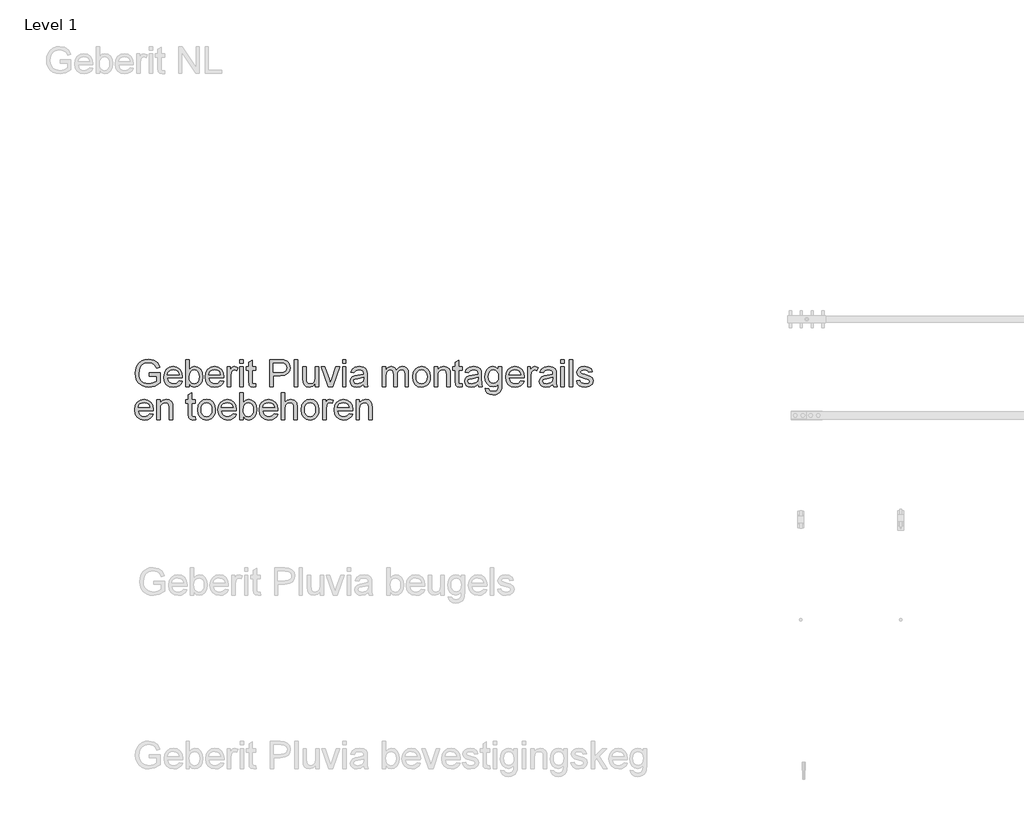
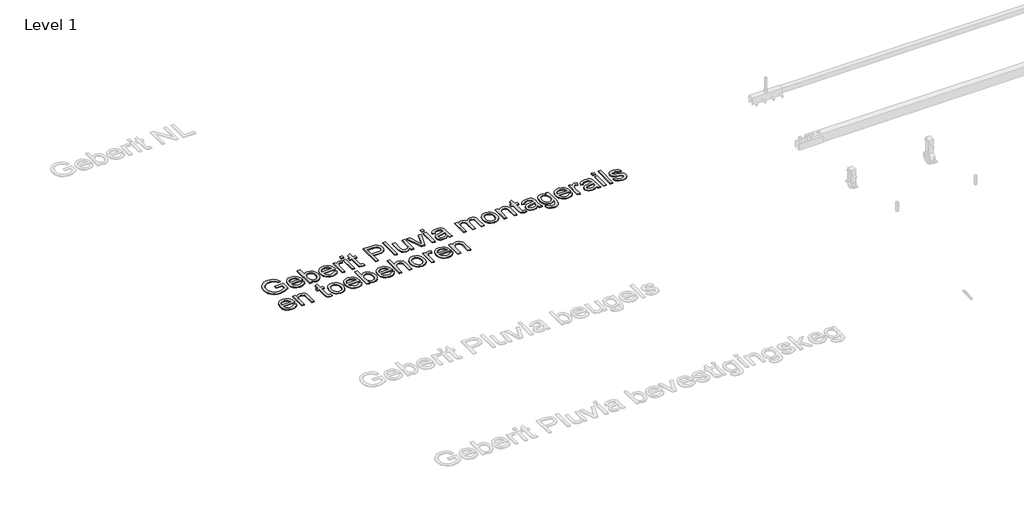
# One storey, part 3 of 5: 1 proxy.
"""IFC4 building model written with IfcOpenShell, lengths in millimetres."""

from ifc_helpers import new_model, si_unit, origin, origin_with_axes, place, context, project, spatial, polyline, outline, extrude, element, save

model = new_model("IFC4")

# Units and contexts
model_context = context("Model", 3, world=origin())
ifc_project = project(units=[si_unit("LENGTHUNIT", "METRE", prefix="MILLI")], contexts=[model_context])

# Site, building, storey
site = spatial("IfcSite", under=ifc_project)
building = spatial("IfcBuilding", under=site)
storey = spatial("IfcBuildingStorey", under=building, Name="Level 1", Elevation=0.0)

# Proxy
placement = place(None, origin())
element("IfcBuildingElementProxy", 1, Name="small", ObjectType="small", at=placement, inside=storey, context=model_context, shape_type="SweptSolid", body=[
    extrude(outline(polyline([(-3110.1129034, 21698.8365557), (-3110.1129034, 21716.41641), (-3052.978377, 21716.41641), (-3052.978377, 21663.8485255), (-3081.1851158, 21647.2644051), (-3111.0056303, 21641.7020293), (-3130.727171, 21643.912387), (-3148.5516668, 21650.54346), (-3163.3589171, 21661.3634826), (-3174.0287212, 21676.1406892), (-3180.479532, 21693.86647), (-3182.6298022, 21713.5322152), (-3180.4881159, 21733.3395949), (-3174.0630569, 21751.7649647), (-3163.6207264, 21767.2203004), (-3149.4272259, 21778.1175783), (-3132.1392247, 21784.5812649), (-3112.4133921, 21786.7358271), (-3084.9105341, 21781.7399896), (-3065.631065, 21767.8340502), (-3055.0041805, 21744.5716454), (-3071.2106086, 21740.0050036), (-3079.2279836, 21756.2629352), (-3092.9279091, 21765.6365684), (-3112.6880773, 21769.1559729), (-3135.1950978, 21765.3618832), (-3150.508799, 21755.4045439), (-3159.5562435, 21741.8591288), (-3165.049948, 21714.2532639), (-3163.3975447, 21697.4416698), (-3158.4403348, 21683.6086937), (-3150.3285368, 21672.8530504), (-3139.2123692, 21665.2734551), (-3112.4133921, 21659.2818836), (-3088.3612673, 21663.797022), (-3070.5582312, 21673.4281726), (-3070.5582312, 21698.8365557), (-3110.1129034, 21698.8365557)])), origin_with_axes(), (0.0, 0.0, 1.0), 5.0),
    extrude(outline(polyline([(-2954.2977106, 21674.6642561), (-2937.0612128, 21672.4667743), (-2943.271674, 21659.4793136), (-2953.1818019, 21649.7709078), (-2966.5684145, 21643.719249), (-2983.2083303, 21641.7020293), (-3003.8354738, 21645.1828062), (-3019.7071293, 21655.6251366), (-3029.827563, 21672.3508915), (-3033.2010409, 21694.6819417), (-3029.7932274, 21717.7640844), (-3019.5697867, 21735.0263339), (-3003.912729, 21745.7905611), (-2984.2040642, 21749.3786368), (-2965.1091493, 21745.799145), (-2949.8512435, 21735.0606695), (-2939.8466927, 21717.8327557), (-2936.5118424, 21694.7849487), (-2936.6148493, 21690.0466286), (-3015.6211866, 21690.0466286), (-3012.5781894, 21676.8874896), (-3005.5093368, 21667.2134194), (-2995.307356, 21661.2647676), (-2982.8649738, 21659.2818836), (-2965.628476, 21662.9557985), (-2954.2977106, 21674.6642561)]), holes=[polyline([(-3015.6211866, 21707.6264829), (-2954.0916967, 21707.6264829), (-2961.1305055, 21723.5582258), (-2971.3796979, 21729.7386433), (-2984.2727355, 21731.7987825), (-2996.1228277, 21730.1549631), (-3005.9213647, 21725.223505), (-3012.7326998, 21717.5366107), (-3015.6211866, 21707.6264829)])]), origin_with_axes(), (0.0, 0.0, 1.0), 5.0),
    extrude(outline(polyline([(-2901.3521338, 21643.8995111), (-2918.9319881, 21643.8995111), (-2918.9319881, 21784.5383453), (-2901.3521338, 21784.5383453), (-2901.3521338, 21732.3824886), (-2889.0428023, 21745.1295997), (-2873.7462689, 21749.3786368), (-2856.132079, 21745.5502115), (-2842.4664891, 21734.7859843), (-2834.071422, 21718.0473535), (-2831.0327167, 21697.0854374), (-2834.1787209, 21673.6170187), (-2843.6167335, 21656.1573392), (-2857.4668775, 21645.3158568), (-2873.8492759, 21641.7020293), (-2889.4805818, 21646.3630942), (-2901.3521338, 21660.3462889), (-2901.3521338, 21643.8995111)]), holes=[polyline([(-2901.3521338, 21696.2613818), (-2900.150386, 21681.600058), (-2896.5451424, 21671.6770543), (-2887.3346035, 21662.3806763), (-2875.3600446, 21659.2818836), (-2865.2138592, 21661.5652045), (-2856.5441068, 21668.4151673), (-2850.595455, 21679.7888523), (-2848.612571, 21695.64334), (-2850.5139078, 21711.7295934), (-2856.2179181, 21722.9745197), (-2864.6172772, 21729.5927168), (-2874.6046602, 21731.7987825), (-2884.7508457, 21729.5154616), (-2893.420598, 21722.6654988), (-2899.3692499, 21711.4978277), (-2901.3521338, 21696.2613818)])]), origin_with_axes(), (0.0, 0.0, 1.0), 5.0),
    extrude(outline(polyline([(-2738.9444957, 21674.6642561), (-2721.7079979, 21672.4667743), (-2727.9184592, 21659.4793136), (-2737.828587, 21649.7709078), (-2751.2151996, 21643.719249), (-2767.8551154, 21641.7020293), (-2788.4822589, 21645.1828062), (-2804.3539144, 21655.6251366), (-2814.4743481, 21672.3508915), (-2817.847826, 21694.6819417), (-2814.4400125, 21717.7640844), (-2804.2165718, 21735.0263339), (-2788.5595141, 21745.7905611), (-2768.8508494, 21749.3786368), (-2749.7559344, 21745.799145), (-2734.4980286, 21735.0606695), (-2724.4934778, 21717.8327557), (-2721.1586275, 21694.7849487), (-2721.2616345, 21690.0466286), (-2800.2679717, 21690.0466286), (-2797.2249745, 21676.8874896), (-2790.156122, 21667.2134194), (-2779.9541411, 21661.2647676), (-2767.5117589, 21659.2818836), (-2750.2752611, 21662.9557985), (-2738.9444957, 21674.6642561)]), holes=[polyline([(-2800.2679717, 21707.6264829), (-2738.7384818, 21707.6264829), (-2745.7772906, 21723.5582258), (-2756.026483, 21729.7386433), (-2768.9195207, 21731.7987825), (-2780.7696129, 21730.1549631), (-2790.5681498, 21725.223505), (-2797.3794849, 21717.5366107), (-2800.2679717, 21707.6264829)])]), origin_with_axes(), (0.0, 0.0, 1.0), 5.0),
    extrude(outline(polyline([(-2703.5787732, 21643.8995111), (-2703.5787732, 21747.181155), (-2688.1964007, 21747.181155), (-2688.1964007, 21731.9017895), (-2677.2776631, 21745.9794072), (-2666.2902542, 21749.3786368), (-2648.6417286, 21743.9536036), (-2654.5131253, 21728.193539), (-2666.8739603, 21731.7987825), (-2676.8141318, 21728.3308816), (-2683.1490598, 21718.7168988), (-2685.9989189, 21698.1841783), (-2685.9989189, 21643.8995111), (-2703.5787732, 21643.8995111)])), origin_with_axes(), (0.0, 0.0, 1.0), 5.0),
    extrude(outline(polyline([(-2637.6543197, 21766.9584911), (-2637.6543197, 21784.5383453), (-2620.0744654, 21784.5383453), (-2620.0744654, 21766.9584911), (-2637.6543197, 21766.9584911)])), origin_with_axes(), (0.0, 0.0, 1.0), 5.0),
    extrude(outline(polyline([(-2637.6543197, 21643.8995111), (-2637.6543197, 21747.181155), (-2620.0744654, 21747.181155), (-2620.0744654, 21643.8995111), (-2637.6543197, 21643.8995111)])), origin_with_axes(), (0.0, 0.0, 1.0), 5.0),
    extrude(outline(polyline([(-2556.3474937, 21658.5608349), (-2554.1500119, 21643.3844763), (-2567.3005669, 21641.7020293), (-2582.030562, 21644.6205598), (-2589.3783917, 21652.2774104), (-2591.5072022, 21672.2264248), (-2591.5072022, 21729.6013007), (-2604.6920929, 21729.6013007), (-2604.6920929, 21747.181155), (-2591.5072022, 21747.181155), (-2591.5072022, 21772.2805173), (-2573.9273479, 21782.6155488), (-2573.9273479, 21747.181155), (-2556.3474937, 21747.181155), (-2556.3474937, 21729.6013007), (-2573.9273479, 21729.6013007), (-2573.9273479, 21672.7414596), (-2573.0002853, 21663.6768472), (-2569.9959157, 21660.4664636), (-2564.0043443, 21659.2818836), (-2556.3474937, 21658.5608349)])), origin_with_axes(), (0.0, 0.0, 1.0), 5.0),
    extrude(outline(polyline([(-2481.633113, 21643.8995111), (-2481.633113, 21784.5383453), (-2429.5115919, 21784.5383453), (-2408.4981723, 21783.1992549), (-2391.416185, 21776.6239774), (-2380.342937, 21763.0270588), (-2376.1539873, 21743.8505967), (-2378.9823867, 21727.2750602), (-2387.467585, 21713.4635439), (-2403.3349485, 21704.1414141), (-2428.3098441, 21701.0340375), (-2464.0532587, 21701.0340375), (-2464.0532587, 21643.8995111), (-2481.633113, 21643.8995111)]), holes=[polyline([(-2464.0532587, 21718.6138918), (-2427.2797745, 21718.6138918), (-2411.6913881, 21720.2276675), (-2401.3906922, 21725.0689945), (-2395.6480543, 21732.837436), (-2393.7338416, 21743.2325549), (-2398.24898, 21757.7908717), (-2410.111948, 21765.7567432), (-2427.6918023, 21766.9584911), (-2464.0532587, 21766.9584911), (-2464.0532587, 21718.6138918)])]), origin_with_axes(), (0.0, 0.0, 1.0), 5.0),
    extrude(outline(polyline([(-2354.1791695, 21643.8995111), (-2354.1791695, 21784.5383453), (-2336.5993152, 21784.5383453), (-2336.5993152, 21643.8995111), (-2354.1791695, 21643.8995111)])), origin_with_axes(), (0.0, 0.0, 1.0), 5.0),
    extrude(outline(polyline([(-2244.3050803, 21643.8995111), (-2244.3050803, 21661.6510437), (-2258.0736771, 21646.6892829), (-2276.0312235, 21641.7020293), (-2292.5638404, 21645.2042659), (-2303.9632771, 21653.9941931), (-2309.1994642, 21666.9387342), (-2310.2295338, 21683.282505), (-2310.2295338, 21747.181155), (-2292.6496795, 21747.181155), (-2292.6496795, 21691.5573973), (-2291.5852743, 21673.6341865), (-2284.6323046, 21663.1103089), (-2271.533253, 21659.2818836), (-2256.8547614, 21663.1961481), (-2247.1549394, 21673.8573683), (-2244.3050803, 21693.4458582), (-2244.3050803, 21747.181155), (-2226.725226, 21747.181155), (-2226.725226, 21643.8995111), (-2244.3050803, 21643.8995111)])), origin_with_axes(), (0.0, 0.0, 1.0), 5.0),
    extrude(outline(polyline([(-2177.2132145, 21643.8995111), (-2213.5403353, 21747.181155), (-2194.9304114, 21747.181155), (-2172.9212579, 21685.3083085), (-2166.2944769, 21664.5009029), (-2159.8050385, 21684.1408963), (-2137.6585424, 21747.181155), (-2119.0486185, 21747.181155), (-2154.9293758, 21643.8995111), (-2177.2132145, 21643.8995111)])), origin_with_axes(), (0.0, 0.0, 1.0), 5.0),
    extrude(outline(polyline([(-2103.666246, 21766.9584911), (-2103.666246, 21784.5383453), (-2086.0863918, 21784.5383453), (-2086.0863918, 21766.9584911), (-2103.666246, 21766.9584911)])), origin_with_axes(), (0.0, 0.0, 1.0), 5.0),
    extrude(outline(polyline([(-2103.666246, 21643.8995111), (-2103.666246, 21747.181155), (-2086.0863918, 21747.181155), (-2086.0863918, 21643.8995111), (-2103.666246, 21643.8995111)])), origin_with_axes(), (0.0, 0.0, 1.0), 5.0),
    extrude(outline(polyline([(-1993.7921568, 21657.0844018), (-2010.8398085, 21645.1699303), (-2029.6729141, 21641.7020293), (-2044.3642816, 21643.7879203), (-2055.201472, 21650.045593), (-2061.8840484, 21659.5479849), (-2064.1115739, 21671.3680334), (-2060.7466799, 21685.2739729), (-2051.9052493, 21695.3686548), (-2039.5959178, 21701.1370445), (-2024.3852235, 21703.7808898), (-1993.8951638, 21709.8239647), (-1993.7921568, 21713.7382291), (-1995.0024886, 21721.5839258), (-1998.6334839, 21726.7171059), (-2006.7538658, 21730.5283634), (-2018.0674634, 21731.7987825), (-2035.8533316, 21728.4167207), (-2044.3342379, 21716.41641), (-2061.9140921, 21718.6138918), (-2054.308745, 21735.7817182), (-2038.9950438, 21745.8420645), (-2015.8013103, 21749.3786368), (-1994.4960377, 21746.2540924), (-1982.4613914, 21738.4083957), (-1977.0706939, 21726.4767563), (-1976.2123025, 21711.0943838), (-1976.2123025, 21689.2225729), (-1975.3195756, 21658.6810097), (-1971.817339, 21643.8995111), (-1989.3971933, 21643.8995111), (-1993.7921568, 21657.0844018)]), holes=[polyline([(-1993.7921568, 21692.2441104), (-2022.1534061, 21686.8534129), (-2037.2782612, 21684.0035537), (-2044.1282239, 21679.3682406), (-2046.5317196, 21672.6041169), (-2041.2955326, 21663.0931411), (-2025.9303279, 21659.2818836), (-2008.1444597, 21663.4880011), (-1996.6763517, 21673.6685222), (-1993.8951638, 21687.2654407), (-1993.7921568, 21692.2441104)])]), origin_with_axes(), (0.0, 0.0, 1.0), 5.0),
    extrude(outline(polyline([(-1897.1029583, 21643.8995111), (-1897.1029583, 21747.181155), (-1879.523104, 21747.181155), (-1879.523104, 21730.1850068), (-1867.4369542, 21744.1081141), (-1850.2347921, 21749.3786368), (-1832.6206022, 21744.0051071), (-1822.9379481, 21728.9489233), (-1809.2208547, 21744.2712084), (-1791.8985179, 21749.3786368), (-1778.6835835, 21747.2541183), (-1768.9107983, 21740.8805627), (-1762.8720153, 21730.0862918), (-1760.8590877, 21714.6996274), (-1760.8590877, 21643.8995111), (-1778.4389419, 21643.8995111), (-1778.4389419, 21707.1457837), (-1780.0698854, 21721.8242754), (-1785.9756177, 21729.0519303), (-1796.0187962, 21731.7987825), (-1805.5426479, 21730.0390803), (-1813.3067974, 21724.7599737), (-1818.4700212, 21715.6009383), (-1820.1910958, 21702.2014497), (-1820.1910958, 21643.8995111), (-1837.7709501, 21643.8995111), (-1837.7709501, 21709.102916), (-1841.839725, 21726.1333998), (-1847.2089627, 21730.3824368), (-1855.1791261, 21731.7987825), (-1868.1923386, 21728.0218607), (-1876.8449231, 21716.9657805), (-1879.523104, 21695.9866966), (-1879.523104, 21643.8995111), (-1897.1029583, 21643.8995111)])), origin_with_axes(), (0.0, 0.0, 1.0), 5.0),
    extrude(outline(polyline([(-1738.8842698, 21695.5403331), (-1735.0815963, 21720.4422653), (-1723.6735756, 21737.9448644), (-1709.5787901, 21746.5201937), (-1692.7028167, 21749.3786368), (-1674.2345274, 21745.89786), (-1659.4830725, 21735.4555295), (-1649.8132943, 21718.8757012), (-1646.5900349, 21696.9824305), (-1648.0149645, 21679.222314), (-1652.2897532, 21665.7026507), (-1659.2899345, 21655.5779251), (-1668.8910414, 21648.0026217), (-1680.2947701, 21643.2771774), (-1692.7028167, 21641.7020293), (-1711.3942877, 21645.1699303), (-1726.1285748, 21655.5736331), (-1735.6953461, 21672.50111), (-1738.8842698, 21695.5403331)]), holes=[polyline([(-1721.3044155, 21695.5746687), (-1719.2700281, 21679.6643856), (-1713.1668658, 21668.3293282), (-1703.9820787, 21661.5437448), (-1692.7028167, 21659.2818836), (-1681.4750582, 21661.5566206), (-1672.3074389, 21668.3808316), (-1666.2042766, 21679.8661075), (-1664.1698891, 21696.1240392), (-1666.2171524, 21711.570791), (-1672.3589424, 21722.751338), (-1681.5394375, 21729.5369214), (-1692.7028167, 21731.7987825), (-1703.9820787, 21729.5455053), (-1713.1668658, 21722.7856736), (-1719.2700281, 21711.476368), (-1721.3044155, 21695.5746687)])]), origin_with_axes(), (0.0, 0.0, 1.0), 5.0),
    extrude(outline(polyline([(-1626.8126988, 21643.8995111), (-1626.8126988, 21747.181155), (-1609.2328445, 21747.181155), (-1609.2328445, 21732.7601808), (-1595.7904364, 21745.2240228), (-1577.43803, 21749.3786368), (-1560.8367418, 21746.0309106), (-1549.5059763, 21737.2409835), (-1544.2354536, 21724.3136102), (-1543.308391, 21707.317462), (-1543.308391, 21643.8995111), (-1560.8882453, 21643.8995111), (-1560.8882453, 21704.948302), (-1562.9140488, 21720.5023527), (-1570.0730324, 21728.7257416), (-1582.1420144, 21731.7987825), (-1592.4384183, 21730.073416), (-1601.2154696, 21724.8973163), (-1607.2285008, 21714.8970574), (-1609.2328445, 21698.6992131), (-1609.2328445, 21643.8995111), (-1626.8126988, 21643.8995111)])), origin_with_axes(), (0.0, 0.0, 1.0), 5.0),
    extrude(outline(polyline([(-1481.778901, 21658.5608349), (-1479.5814192, 21643.3844763), (-1492.7319743, 21641.7020293), (-1507.4619694, 21644.6205598), (-1514.8097991, 21652.2774104), (-1516.9386096, 21672.2264248), (-1516.9386096, 21729.6013007), (-1530.1235003, 21729.6013007), (-1530.1235003, 21747.181155), (-1516.9386096, 21747.181155), (-1516.9386096, 21772.2805173), (-1499.3587553, 21782.6155488), (-1499.3587553, 21747.181155), (-1481.778901, 21747.181155), (-1481.778901, 21729.6013007), (-1499.3587553, 21729.6013007), (-1499.3587553, 21672.7414596), (-1498.4316927, 21663.6768472), (-1495.427323, 21660.4664636), (-1489.4357516, 21659.2818836), (-1481.778901, 21658.5608349)])), origin_with_axes(), (0.0, 0.0, 1.0), 5.0),
    extrude(outline(polyline([(-1398.2745932, 21657.0844018), (-1415.3222449, 21645.1699303), (-1434.1553505, 21641.7020293), (-1448.846718, 21643.7879203), (-1459.6839084, 21650.045593), (-1466.3664848, 21659.5479849), (-1468.5940103, 21671.3680334), (-1465.2291163, 21685.2739729), (-1456.3876857, 21695.3686548), (-1444.0783542, 21701.1370445), (-1428.8676599, 21703.7808898), (-1398.3776002, 21709.8239647), (-1398.2745932, 21713.7382291), (-1399.484925, 21721.5839258), (-1403.1159203, 21726.7171059), (-1411.2363022, 21730.5283634), (-1422.5498998, 21731.7987825), (-1440.335768, 21728.4167207), (-1448.8166743, 21716.41641), (-1466.3965285, 21718.6138918), (-1458.7911814, 21735.7817182), (-1443.4774802, 21745.8420645), (-1420.2837467, 21749.3786368), (-1398.9784741, 21746.2540924), (-1386.9438278, 21738.4083957), (-1381.5531303, 21726.4767563), (-1380.6947389, 21711.0943838), (-1380.6947389, 21689.2225729), (-1379.802012, 21658.6810097), (-1376.2997754, 21643.8995111), (-1393.8796296, 21643.8995111), (-1398.2745932, 21657.0844018)]), holes=[polyline([(-1398.2745932, 21692.2441104), (-1426.6358425, 21686.8534129), (-1441.7606976, 21684.0035537), (-1448.6106603, 21679.3682406), (-1451.014156, 21672.6041169), (-1445.777969, 21663.0931411), (-1430.4127643, 21659.2818836), (-1412.6268961, 21663.4880011), (-1401.1587881, 21673.6685222), (-1398.3776002, 21687.2654407), (-1398.2745932, 21692.2441104)])]), origin_with_axes(), (0.0, 0.0, 1.0), 5.0),
    extrude(outline(polyline([(-1360.9174029, 21635.109584), (-1343.3375486, 21632.9121022), (-1337.6378302, 21623.6414759), (-1320.5730107, 21619.7272115), (-1302.5811286, 21624.1565107), (-1293.9972154, 21636.5860171), (-1292.7954676, 21657.0844018), (-1305.1734704, 21647.1957338), (-1320.2639899, 21643.8995111), (-1338.3889226, 21647.7365203), (-1351.904294, 21659.247548), (-1360.312237, 21676.1235214), (-1363.1148847, 21696.0553679), (-1358.0847115, 21723.3007084), (-1351.9300457, 21734.3610806), (-1343.5263947, 21742.5801775), (-1333.1613195, 21747.679022), (-1321.1223812, 21749.3786368), (-1305.4395717, 21745.5330437), (-1292.7954676, 21733.9962643), (-1292.7954676, 21747.181155), (-1275.2156133, 21747.181155), (-1275.2156133, 21658.0114645), (-1276.4173611, 21637.4229486), (-1280.0226047, 21623.8646577), (-1286.2330659, 21614.8730086), (-1295.2504667, 21607.9844182), (-1306.8773772, 21603.6066225), (-1320.9163673, 21602.1473572), (-1337.2730139, 21604.2032044), (-1350.1531757, 21610.3707461), (-1358.4151922, 21620.66715), (-1360.9174029, 21635.109584)]), holes=[polyline([(-1345.5350304, 21697.2571157), (-1343.6594453, 21681.1322347), (-1338.0326902, 21670.0461108), (-1329.5732438, 21663.6210518), (-1319.1995846, 21661.4793654), (-1308.9031807, 21663.6081759), (-1300.4008147, 21669.9946073), (-1294.6968043, 21680.9390967), (-1292.7954676, 21696.7420809), (-1294.7525998, 21711.9828188), (-1300.6239964, 21722.9573519), (-1309.2508292, 21729.5884249), (-1319.4742698, 21731.7987825), (-1329.5131564, 21729.6227605), (-1337.9296833, 21723.0946945), (-1343.6336936, 21712.2832558), (-1345.5350304, 21697.2571157)])]), origin_with_axes(), (0.0, 0.0, 1.0), 5.0),
    extrude(outline(polyline([(-1176.5349469, 21674.6642561), (-1159.2984491, 21672.4667743), (-1165.5089104, 21659.4793136), (-1175.4190382, 21649.7709078), (-1188.8056508, 21643.719249), (-1205.4455666, 21641.7020293), (-1226.0727101, 21645.1828062), (-1241.9443656, 21655.6251366), (-1252.0647993, 21672.3508915), (-1255.4382772, 21694.6819417), (-1252.0304637, 21717.7640844), (-1241.807023, 21735.0263339), (-1226.1499653, 21745.7905611), (-1206.4413006, 21749.3786368), (-1187.3463856, 21745.799145), (-1172.0884798, 21735.0606695), (-1162.083929, 21717.8327557), (-1158.7490787, 21694.7849487), (-1158.8520857, 21690.0466286), (-1237.8584229, 21690.0466286), (-1234.8154257, 21676.8874896), (-1227.7465732, 21667.2134194), (-1217.5445923, 21661.2647676), (-1205.1022101, 21659.2818836), (-1187.8657123, 21662.9557985), (-1176.5349469, 21674.6642561)]), holes=[polyline([(-1237.8584229, 21707.6264829), (-1176.328933, 21707.6264829), (-1183.3677418, 21723.5582258), (-1193.6169342, 21729.7386433), (-1206.5099719, 21731.7987825), (-1218.3600641, 21730.1549631), (-1228.158601, 21725.223505), (-1234.9699361, 21717.5366107), (-1237.8584229, 21707.6264829)])]), origin_with_axes(), (0.0, 0.0, 1.0), 5.0),
    extrude(outline(polyline([(-1141.1692244, 21643.8995111), (-1141.1692244, 21747.181155), (-1125.7868519, 21747.181155), (-1125.7868519, 21731.9017895), (-1114.8681143, 21745.9794072), (-1103.8807054, 21749.3786368), (-1086.2321798, 21743.9536036), (-1092.1035765, 21728.193539), (-1104.4644115, 21731.7987825), (-1114.404583, 21728.3308816), (-1120.739511, 21718.7168988), (-1123.5893701, 21698.1841783), (-1123.5893701, 21643.8995111), (-1141.1692244, 21643.8995111)])), origin_with_axes(), (0.0, 0.0, 1.0), 5.0),
    extrude(outline(polyline([(-1009.3203174, 21657.0844018), (-1026.367969, 21645.1699303), (-1045.2010746, 21641.7020293), (-1059.8924421, 21643.7879203), (-1070.7296325, 21650.045593), (-1077.412209, 21659.5479849), (-1079.6397345, 21671.3680334), (-1076.2748405, 21685.2739729), (-1067.4334099, 21695.3686548), (-1055.1240783, 21701.1370445), (-1039.9133841, 21703.7808898), (-1009.4233243, 21709.8239647), (-1009.3203174, 21713.7382291), (-1010.5306491, 21721.5839258), (-1014.1616444, 21726.7171059), (-1022.2820263, 21730.5283634), (-1033.5956239, 21731.7987825), (-1051.3814921, 21728.4167207), (-1059.8623984, 21716.41641), (-1077.4422527, 21718.6138918), (-1069.8369056, 21735.7817182), (-1054.5232044, 21745.8420645), (-1031.3294709, 21749.3786368), (-1010.0241982, 21746.2540924), (-997.9895519, 21738.4083957), (-992.5988544, 21726.4767563), (-991.7404631, 21711.0943838), (-991.7404631, 21689.2225729), (-990.8477361, 21658.6810097), (-987.3454995, 21643.8995111), (-1004.9253538, 21643.8995111), (-1009.3203174, 21657.0844018)]), holes=[polyline([(-1009.3203174, 21692.2441104), (-1037.6815666, 21686.8534129), (-1052.8064217, 21684.0035537), (-1059.6563845, 21679.3682406), (-1062.0598802, 21672.6041169), (-1056.8236931, 21663.0931411), (-1041.4584885, 21659.2818836), (-1023.6726203, 21663.4880011), (-1012.2045122, 21673.6685222), (-1009.4233243, 21687.2654407), (-1009.3203174, 21692.2441104)])]), origin_with_axes(), (0.0, 0.0, 1.0), 5.0),
    extrude(outline(polyline([(-967.5681634, 21766.9584911), (-967.5681634, 21784.5383453), (-949.9883092, 21784.5383453), (-949.9883092, 21766.9584911), (-967.5681634, 21766.9584911)])), origin_with_axes(), (0.0, 0.0, 1.0), 5.0),
    extrude(outline(polyline([(-967.5681634, 21643.8995111), (-967.5681634, 21747.181155), (-949.9883092, 21747.181155), (-949.9883092, 21643.8995111), (-967.5681634, 21643.8995111)])), origin_with_axes(), (0.0, 0.0, 1.0), 5.0),
    extrude(outline(polyline([(-923.6185278, 21643.8995111), (-923.6185278, 21784.5383453), (-906.0386735, 21784.5383453), (-906.0386735, 21643.8995111), (-923.6185278, 21643.8995111)])), origin_with_axes(), (0.0, 0.0, 1.0), 5.0),
    extrude(outline(polyline([(-886.2613374, 21674.6642561), (-868.6814831, 21676.8617379), (-865.9088792, 21669.3422299), (-860.5439334, 21663.8141898), (-841.8996739, 21659.2818836), (-823.9764631, 21663.4364976), (-818.1394021, 21673.187823), (-824.0107987, 21681.0850232), (-842.1056878, 21686.0980285), (-868.5784762, 21694.6991096), (-880.1324234, 21704.742288), (-884.0638556, 21718.9229127), (-880.9049756, 21732.0219643), (-872.2867267, 21742.0308071), (-861.1104717, 21747.2326585), (-845.9856166, 21749.3786368), (-824.5945048, 21745.9279037), (-810.9975863, 21736.5886061), (-804.9545114, 21720.8113736), (-822.5343657, 21718.6138918), (-829.1439788, 21728.3137137), (-844.6121905, 21731.7987825), (-861.4366604, 21728.4682242), (-866.4840014, 21720.7083666), (-864.3895265, 21715.5923544), (-857.8314168, 21711.7124256), (-842.6893939, 21707.9698394), (-816.8861508, 21699.6949471), (-804.9030079, 21690.3213138), (-800.5595478, 21675.0419483), (-805.6583923, 21658.2174784), (-820.3712195, 21646.0111538), (-842.1400235, 21641.7020293), (-859.8658043, 21643.7793363), (-872.8017615, 21650.0112573), (-881.4371782, 21660.329121), (-886.2613374, 21674.6642561)])), origin_with_axes(), (0.0, 0.0, 1.0), 5.0),
    extrude(outline(polyline([(-3105.9239537, 21503.8995111), (-3088.687456, 21501.7020293), (-3094.8979172, 21488.7145686), (-3104.808045, 21479.0061628), (-3118.1946577, 21472.954504), (-3134.8345734, 21470.9372844), (-3155.4617169, 21474.4180612), (-3171.3333724, 21484.8603916), (-3181.4538061, 21501.5861465), (-3184.827284, 21523.9171968), (-3181.4194705, 21546.9993394), (-3171.1960298, 21564.2615889), (-3155.5389721, 21575.0258161), (-3135.8303074, 21578.6138918), (-3116.7353924, 21575.0344), (-3101.4774867, 21564.2959246), (-3091.4729358, 21547.0680107), (-3088.1380855, 21524.0202037), (-3088.2410925, 21519.2818836), (-3167.2474298, 21519.2818836), (-3164.2044325, 21506.1227447), (-3157.13558, 21496.4486745), (-3146.9335991, 21490.5000226), (-3134.4912169, 21488.5171386), (-3117.2547192, 21492.1910535), (-3105.9239537, 21503.8995111)]), holes=[polyline([(-3167.2474298, 21536.8617379), (-3105.7179398, 21536.8617379), (-3112.7567486, 21552.7934808), (-3123.005941, 21558.9738984), (-3135.8989787, 21561.0340375), (-3147.7490709, 21559.3902181), (-3157.5476078, 21554.45876), (-3164.358943, 21546.7718657), (-3167.2474298, 21536.8617379)])]), origin_with_axes(), (0.0, 0.0, 1.0), 5.0),
    extrude(outline(polyline([(-3070.5582312, 21473.1347662), (-3070.5582312, 21576.41641), (-3052.978377, 21576.41641), (-3052.978377, 21561.9954358), (-3039.5359689, 21574.4592778), (-3021.1835624, 21578.6138918), (-3004.5822742, 21575.2661657), (-2993.2515088, 21566.4762385), (-2987.9809861, 21553.5488652), (-2987.0539234, 21536.552717), (-2987.0539234, 21473.1347662), (-3004.6337777, 21473.1347662), (-3004.6337777, 21534.183557), (-3006.6595812, 21549.7376077), (-3013.8185648, 21557.9609966), (-3025.8875468, 21561.0340375), (-3036.1839507, 21559.308671), (-3044.961002, 21554.1325713), (-3050.9740332, 21544.1323124), (-3052.978377, 21527.9344682), (-3052.978377, 21473.1347662), (-3070.5582312, 21473.1347662)])), origin_with_axes(), (0.0, 0.0, 1.0), 5.0),
    extrude(outline(polyline([(-2870.5873888, 21487.7960899), (-2868.3899071, 21472.6197314), (-2881.5404621, 21470.9372844), (-2896.2704572, 21473.8558149), (-2903.6182869, 21481.5126655), (-2905.7470974, 21501.4616798), (-2905.7470974, 21558.8365557), (-2918.9319881, 21558.8365557), (-2918.9319881, 21576.41641), (-2905.7470974, 21576.41641), (-2905.7470974, 21601.5157723), (-2888.1672431, 21611.8508038), (-2888.1672431, 21576.41641), (-2870.5873888, 21576.41641), (-2870.5873888, 21558.8365557), (-2888.1672431, 21558.8365557), (-2888.1672431, 21501.9767146), (-2887.2401805, 21492.9121022), (-2884.2358109, 21489.7017187), (-2878.2442394, 21488.5171386), (-2870.5873888, 21487.7960899)])), origin_with_axes(), (0.0, 0.0, 1.0), 5.0),
    extrude(outline(polyline([(-2857.4024981, 21524.7755881), (-2853.5998246, 21549.6775203), (-2842.1918039, 21567.1801194), (-2828.0970184, 21575.7554487), (-2811.221045, 21578.6138918), (-2792.7527557, 21575.133115), (-2778.0013008, 21564.6907846), (-2768.3315226, 21548.1109562), (-2765.1082632, 21526.2176855), (-2766.5331928, 21508.4575691), (-2770.8079816, 21494.9379057), (-2777.8081628, 21484.8131801), (-2787.4092697, 21477.2378767), (-2798.8129984, 21472.5124324), (-2811.221045, 21470.9372844), (-2829.912516, 21474.4051853), (-2844.6468031, 21484.8088881), (-2854.2135744, 21501.736365), (-2857.4024981, 21524.7755881)]), holes=[polyline([(-2839.8226439, 21524.8099237), (-2837.7882564, 21508.8996406), (-2831.6850941, 21497.5645832), (-2822.500307, 21490.7789998), (-2811.221045, 21488.5171386), (-2799.9932865, 21490.7918756), (-2790.8256672, 21497.6160867), (-2784.7225049, 21509.1013625), (-2782.6881175, 21525.3592942), (-2784.7353808, 21540.806046), (-2790.8771707, 21551.986593), (-2800.0576659, 21558.7721764), (-2811.221045, 21561.0340375), (-2822.500307, 21558.7807603), (-2831.6850941, 21552.0209286), (-2837.7882564, 21540.711623), (-2839.8226439, 21524.8099237)])]), origin_with_axes(), (0.0, 0.0, 1.0), 5.0),
    extrude(outline(polyline([(-2673.0200422, 21503.8995111), (-2655.7835444, 21501.7020293), (-2661.9940056, 21488.7145686), (-2671.9041334, 21479.0061628), (-2685.2907461, 21472.954504), (-2701.9306619, 21470.9372844), (-2722.5578054, 21474.4180612), (-2738.4294609, 21484.8603916), (-2748.5498946, 21501.5861465), (-2751.9233725, 21523.9171968), (-2748.5155589, 21546.9993394), (-2738.2921183, 21564.2615889), (-2722.6350606, 21575.0258161), (-2702.9263958, 21578.6138918), (-2683.8314809, 21575.0344), (-2668.5735751, 21564.2959246), (-2658.5690242, 21547.0680107), (-2655.234174, 21524.0202037), (-2655.3371809, 21519.2818836), (-2734.3435182, 21519.2818836), (-2731.300521, 21506.1227447), (-2724.2316684, 21496.4486745), (-2714.0296876, 21490.5000226), (-2701.5873054, 21488.5171386), (-2684.3508076, 21492.1910535), (-2673.0200422, 21503.8995111)]), holes=[polyline([(-2734.3435182, 21536.8617379), (-2672.8140282, 21536.8617379), (-2679.8528371, 21552.7934808), (-2690.1020295, 21558.9738984), (-2702.9950671, 21561.0340375), (-2714.8451593, 21559.3902181), (-2724.6436963, 21554.45876), (-2731.4550314, 21546.7718657), (-2734.3435182, 21536.8617379)])]), origin_with_axes(), (0.0, 0.0, 1.0), 5.0),
    extrude(outline(polyline([(-2620.0744654, 21473.1347662), (-2637.6543197, 21473.1347662), (-2637.6543197, 21613.7736004), (-2620.0744654, 21613.7736004), (-2620.0744654, 21561.6177436), (-2607.7651339, 21574.3648548), (-2592.4686005, 21578.6138918), (-2574.8544106, 21574.7854665), (-2561.1888207, 21564.0212393), (-2552.7937536, 21547.2826086), (-2549.7550483, 21526.3206925), (-2552.9010525, 21502.8522737), (-2562.3390651, 21485.3925942), (-2576.1892091, 21474.5511118), (-2592.5716074, 21470.9372844), (-2608.2029134, 21475.5983492), (-2620.0744654, 21489.5815439), (-2620.0744654, 21473.1347662)]), holes=[polyline([(-2620.0744654, 21525.4966368), (-2618.8727176, 21510.835313), (-2615.267474, 21500.9123093), (-2606.0569351, 21491.6159313), (-2594.0823762, 21488.5171386), (-2583.9361907, 21490.8004596), (-2575.2664384, 21497.6504223), (-2569.3177865, 21509.0241073), (-2567.3349026, 21524.878595), (-2569.2362394, 21540.9648484), (-2574.9402497, 21552.2097747), (-2583.3396088, 21558.8279718), (-2593.3269918, 21561.0340375), (-2603.4731772, 21558.7507166), (-2612.1429296, 21551.9007539), (-2618.0915815, 21540.7330828), (-2620.0744654, 21525.4966368)])]), origin_with_axes(), (0.0, 0.0, 1.0), 5.0),
    extrude(outline(polyline([(-2457.6668273, 21503.8995111), (-2440.4303295, 21501.7020293), (-2446.6407907, 21488.7145686), (-2456.5509186, 21479.0061628), (-2469.9375312, 21472.954504), (-2486.577447, 21470.9372844), (-2507.2045905, 21474.4180612), (-2523.076246, 21484.8603916), (-2533.1966797, 21501.5861465), (-2536.5701576, 21523.9171968), (-2533.162344, 21546.9993394), (-2522.9389034, 21564.2615889), (-2507.2818457, 21575.0258161), (-2487.5731809, 21578.6138918), (-2468.478266, 21575.0344), (-2453.2203602, 21564.2959246), (-2443.2158094, 21547.0680107), (-2439.8809591, 21524.0202037), (-2439.983966, 21519.2818836), (-2518.9903033, 21519.2818836), (-2515.9473061, 21506.1227447), (-2508.8784535, 21496.4486745), (-2498.6764727, 21490.5000226), (-2486.2340905, 21488.5171386), (-2468.9975927, 21492.1910535), (-2457.6668273, 21503.8995111)]), holes=[polyline([(-2518.9903033, 21536.8617379), (-2457.4608134, 21536.8617379), (-2464.4996222, 21552.7934808), (-2474.7488146, 21558.9738984), (-2487.6418522, 21561.0340375), (-2499.4919444, 21559.3902181), (-2509.2904814, 21554.45876), (-2516.1018165, 21546.7718657), (-2518.9903033, 21536.8617379)])]), origin_with_axes(), (0.0, 0.0, 1.0), 5.0),
    extrude(outline(polyline([(-2422.3011048, 21473.1347662), (-2422.3011048, 21613.7736004), (-2404.7212505, 21613.7736004), (-2404.7212505, 21562.0641071), (-2391.0127411, 21574.4764456), (-2374.1281838, 21578.6138918), (-2354.3851834, 21574.0987535), (-2342.4020405, 21561.6177436), (-2338.796797, 21538.5098492), (-2338.796797, 21473.1347662), (-2356.3766513, 21473.1347662), (-2356.3766513, 21536.6900596), (-2357.7758291, 21547.6946364), (-2361.9733627, 21555.2313122), (-2368.7374863, 21559.5833562), (-2377.8364343, 21561.0340375), (-2392.2402407, 21557.1197731), (-2401.8542235, 21546.5100564), (-2404.7212505, 21528.0031395), (-2404.7212505, 21473.1347662), (-2422.3011048, 21473.1347662)])), origin_with_axes(), (0.0, 0.0, 1.0), 5.0),
    extrude(outline(polyline([(-2319.0194609, 21524.7755881), (-2315.2167874, 21549.6775203), (-2303.8087667, 21567.1801194), (-2289.7139812, 21575.7554487), (-2272.8380078, 21578.6138918), (-2254.3697185, 21575.133115), (-2239.6182636, 21564.6907846), (-2229.9484854, 21548.1109562), (-2226.725226, 21526.2176855), (-2228.1501556, 21508.4575691), (-2232.4249444, 21494.9379057), (-2239.4251256, 21484.8131801), (-2249.0262325, 21477.2378767), (-2260.4299612, 21472.5124324), (-2272.8380078, 21470.9372844), (-2291.5294788, 21474.4051853), (-2306.2637659, 21484.8088881), (-2315.8305372, 21501.736365), (-2319.0194609, 21524.7755881)]), holes=[polyline([(-2301.4396067, 21524.8099237), (-2299.4052192, 21508.8996406), (-2293.3020569, 21497.5645832), (-2284.1172698, 21490.7789998), (-2272.8380078, 21488.5171386), (-2261.6102493, 21490.7918756), (-2252.44263, 21497.6160867), (-2246.3394677, 21509.1013625), (-2244.3050803, 21525.3592942), (-2246.3523436, 21540.806046), (-2252.4941335, 21551.986593), (-2261.6746287, 21558.7721764), (-2272.8380078, 21561.0340375), (-2284.1172698, 21558.7807603), (-2293.3020569, 21552.0209286), (-2299.4052192, 21540.711623), (-2301.4396067, 21524.8099237)])]), origin_with_axes(), (0.0, 0.0, 1.0), 5.0),
    extrude(outline(polyline([(-2206.9478899, 21473.1347662), (-2206.9478899, 21576.41641), (-2191.5655174, 21576.41641), (-2191.5655174, 21561.1370445), (-2180.6467798, 21575.2146622), (-2169.6593709, 21578.6138918), (-2152.0108453, 21573.1888587), (-2157.8822419, 21557.428794), (-2170.243077, 21561.0340375), (-2180.1832485, 21557.5661366), (-2186.5181765, 21547.9521538), (-2189.3680356, 21527.4194334), (-2189.3680356, 21473.1347662), (-2206.9478899, 21473.1347662)])), origin_with_axes(), (0.0, 0.0, 1.0), 5.0),
    extrude(outline(polyline([(-2068.7125514, 21503.8995111), (-2051.4760537, 21501.7020293), (-2057.6865149, 21488.7145686), (-2067.5966427, 21479.0061628), (-2080.9832554, 21472.954504), (-2097.6231711, 21470.9372844), (-2118.2503146, 21474.4180612), (-2134.1219702, 21484.8603916), (-2144.2424038, 21501.5861465), (-2147.6158817, 21523.9171968), (-2144.2080682, 21546.9993394), (-2133.9846275, 21564.2615889), (-2118.3275698, 21575.0258161), (-2098.6189051, 21578.6138918), (-2079.5239901, 21575.0344), (-2064.2660844, 21564.2959246), (-2054.2615335, 21547.0680107), (-2050.9266832, 21524.0202037), (-2051.0296902, 21519.2818836), (-2130.0360275, 21519.2818836), (-2126.9930302, 21506.1227447), (-2119.9241777, 21496.4486745), (-2109.7221968, 21490.5000226), (-2097.2798146, 21488.5171386), (-2080.0433169, 21492.1910535), (-2068.7125514, 21503.8995111)]), holes=[polyline([(-2130.0360275, 21536.8617379), (-2068.5065375, 21536.8617379), (-2075.5453463, 21552.7934808), (-2085.7945387, 21558.9738984), (-2098.6875764, 21561.0340375), (-2110.5376686, 21559.3902181), (-2120.3362055, 21554.45876), (-2127.1475407, 21546.7718657), (-2130.0360275, 21536.8617379)])]), origin_with_axes(), (0.0, 0.0, 1.0), 5.0),
    extrude(outline(polyline([(-2033.3468289, 21473.1347662), (-2033.3468289, 21576.41641), (-2015.7669747, 21576.41641), (-2015.7669747, 21561.9954358), (-2002.3245666, 21574.4592778), (-1983.9721601, 21578.6138918), (-1967.3708719, 21575.2661657), (-1956.0401065, 21566.4762385), (-1950.7695838, 21553.5488652), (-1949.8425211, 21536.552717), (-1949.8425211, 21473.1347662), (-1967.4223754, 21473.1347662), (-1967.4223754, 21534.183557), (-1969.4481789, 21549.7376077), (-1976.6071626, 21557.9609966), (-1988.6761445, 21561.0340375), (-1998.9725484, 21559.308671), (-2007.7495997, 21554.1325713), (-2013.7626309, 21544.1323124), (-2015.7669747, 21527.9344682), (-2015.7669747, 21473.1347662), (-2033.3468289, 21473.1347662)])), origin_with_axes(), (0.0, 0.0, 1.0), 5.0),
])

save(model, "model.ifc")
